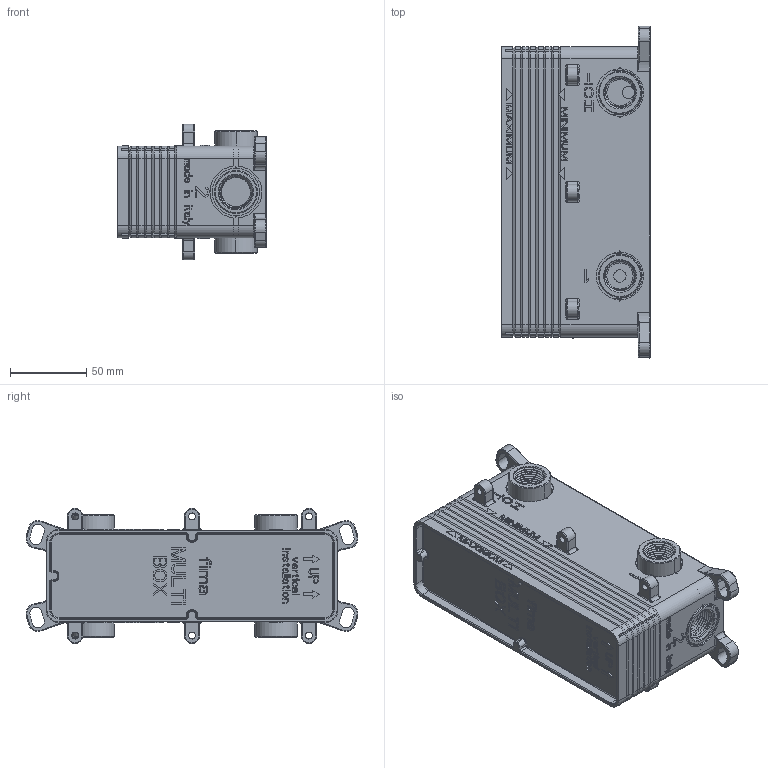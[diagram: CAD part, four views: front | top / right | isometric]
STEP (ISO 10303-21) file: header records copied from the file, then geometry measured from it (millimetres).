
FILE_DESCRIPTION((''),'2;1');
FILE_NAME('F4000_FILE_3D','2014-03-04T',('ivanv'),(''),'PRO/ENGINEER BY PARAMETRIC TECHNOLOGY CORPORATION, 2012130','PRO/ENGINEER BY PARAMETRIC TECHNOLOGY CORPORATION, 2012130','');
FILE_SCHEMA(('CONFIG_CONTROL_DESIGN'));
Length unit declared in the file: millimetre
Products named in the file (1): F4000_FILE_3D
Bounding box: 97.5 x 217.17 x 88.5 mm (x, y, z)
Volume: 622431.3 mm3; surface area: 191404.2 mm2
Topology: 1 solids, 1 shells, 3836 faces, 10307 edges, 6612 vertices
Faces by surface type: plane 2511, cylinder 787, torus 186, bspline 179, cone 110, extrusion 53, sphere 10
Entity records: 138480 total; most frequent: CARTESIAN_POINT 43433, ORIENTED_EDGE 20610, DIRECTION 18299, EDGE_CURVE 10305, VECTOR 7831, LINE 7778, VERTEX_POINT 6612, AXIS2_PLACEMENT_3D 5234
